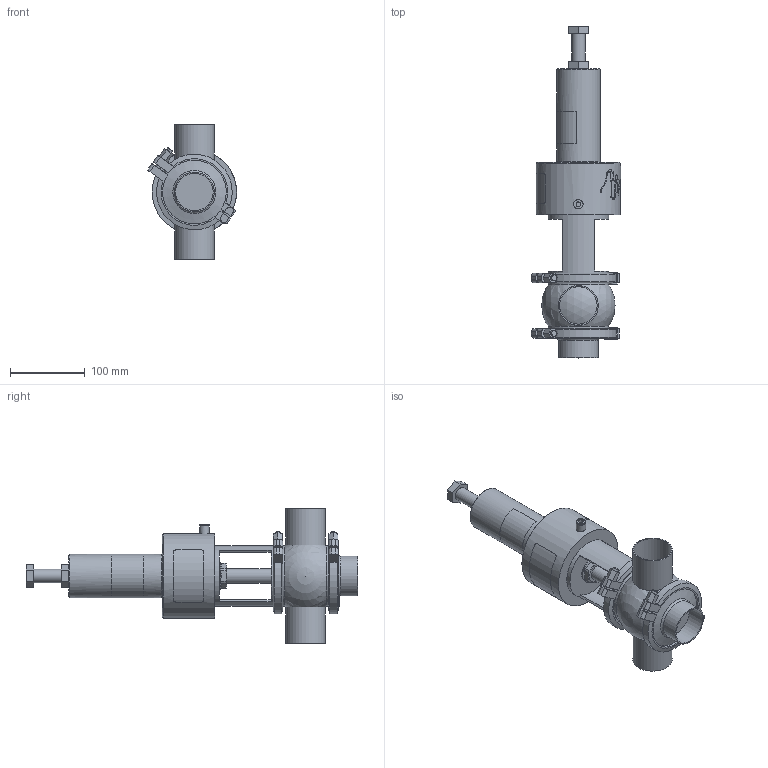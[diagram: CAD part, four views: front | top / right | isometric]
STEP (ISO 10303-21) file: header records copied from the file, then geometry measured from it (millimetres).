
FILE_DESCRIPTION (( 'STEP AP214' ), '1' );
FILE_NAME ('INNOVA J T W DIN 050_10.245.16.0002.STEP', '2024-08-08T08:02:16', ( '' ), ( '' ), 'SwSTEP 2.0', 'SolidWorks 2023', '' );
FILE_SCHEMA (( 'AUTOMOTIVE_DESIGN' ));
Length unit declared in the file: millimetre
Products named in the file (6): 10.240.15.0001_DN 050; 10.247.15.0001_DIN 050; 10.245.15.0001_T2 SE NC_DN 050; INNOVA J T W DIN 050_10.245.16.0002; 10.240.15.0010_DN 050; 10.240.15.0007_DIN 050
Assembly tree (6 placements, depth 2):
  INNOVA J T W DIN 050_10.245.16.0002
    10.240.15.0007_DIN 050
    10.247.15.0001_DIN 050
    10.240.15.0010_DN 050
    10.245.15.0001_T2 SE NC_DN 050
    10.240.15.0001_DN 050  x2
Bounding box: 118.84 x 443 x 180 mm (x, y, z)
Volume: 1787443.5 mm3; surface area: 242328.8 mm2
Topology: 6 solids, 6 shells, 381 faces, 1007 edges, 663 vertices
Faces by surface type: plane 191, cylinder 82, bspline 78, cone 25, sphere 3, torus 2
Full cylindrical faces by diameter (mm): 6.15 x1, 8 x4, 10.5 x1, 12.5 x2, 18 x1, 20 x1, 36.5 x1, 50 x3, 53 x3, 58 x1, 81 x3, 93 x4, 112.5 x1
Entity records: 20013 total; most frequent: CARTESIAN_POINT 11044, ORIENTED_EDGE 1582, DIRECTION 1195, EDGE_CURVE 791, VERTEX_POINT 544, AXIS2_PLACEMENT_3D 445, EDGE_LOOP 393, FACE_OUTER_BOUND 350
